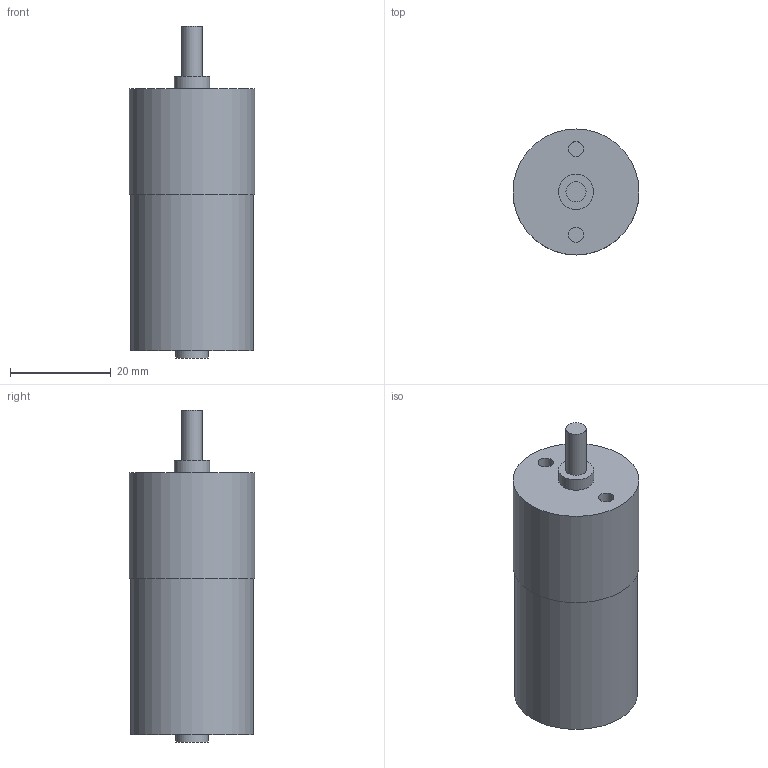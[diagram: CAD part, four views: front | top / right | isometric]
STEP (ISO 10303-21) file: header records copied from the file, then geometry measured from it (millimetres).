
FILE_DESCRIPTION(/* description */ (''),/* implementation_level */ '2;1');
FILE_NAME(/* name */ 'C:/Users/priba/Documents/Temp/mrm-bdc24-34.step',/* time_stamp */ '2020-04-08T11:58:18+02:00',/* author */ (''),/* organization */ (''),/* preprocessor_version */ 'ST-DEVELOPER v18',/* originating_system */ 'Autodesk Translation Framework v8.12.0.6',/* authorisation */ '');
FILE_SCHEMA (('AUTOMOTIVE_DESIGN { 1 0 10303 214 3 1 1 }'));
Length unit declared in the file: millimetre
Products named in the file (1): mrm-bdc24-34
Bounding box: 25 x 25 x 65.9 mm (x, y, z)
Volume: 25014.1 mm3; surface area: 5291.6 mm2
Topology: 1 solids, 1 shells, 15 faces, 31 edges, 24 vertices
Faces by surface type: plane 8, cylinder 7
Full cylindrical faces by diameter (mm): 3 x2, 4 x1, 6.4 x1, 7 x1, 24.4 x1, 25 x1
Entity records: 462 total; most frequent: DIRECTION 87, CARTESIAN_POINT 71, ORIENTED_EDGE 62, AXIS2_PLACEMENT_3D 40, EDGE_CURVE 31, CIRCLE 24, VERTEX_POINT 24, EDGE_LOOP 21
